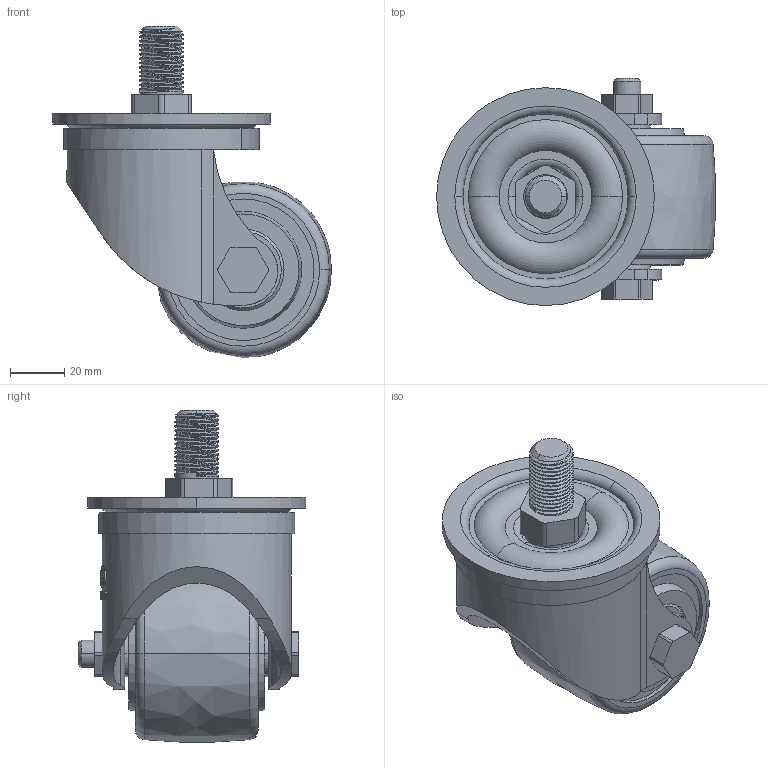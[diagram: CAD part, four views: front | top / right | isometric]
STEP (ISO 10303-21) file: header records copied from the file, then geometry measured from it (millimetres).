
FILE_DESCRIPTION(/* description */ (''),/* implementation_level */ '2;1');
FILE_NAME(/* name */ '30A24_2,5_F.stp',/* time_stamp */ '2022-10-07T08:11:25+08:00',/* author */ (''),/* organization */ (''),/* preprocessor_version */ 'ST-DEVELOPER v14',/* originating_system */ 'SIEMENS PLM Software NX 8.0',/* authorisation */ '');
FILE_SCHEMA (('AUTOMOTIVE_DESIGN { 1 0 10303 214 3 1 1 1 }'));
Length unit declared in the file: millimetre
Products named in the file (1): 30A24_2,5_F
Bounding box: 102.4 x 83.5 x 121.9 mm (x, y, z)
Volume: 218348.6 mm3; surface area: 61796.1 mm2
Topology: 1 solids, 6 shells, 414 faces, 1089 edges, 721 vertices
Faces by surface type: plane 205, cylinder 149, torus 22, cone 20, bspline 18
Entity records: 15460 total; most frequent: CARTESIAN_POINT 5093, DIRECTION 2206, ORIENTED_EDGE 2178, EDGE_CURVE 1089, AXIS2_PLACEMENT_3D 892, VERTEX_POINT 721, EDGE_LOOP 458, LINE 422
